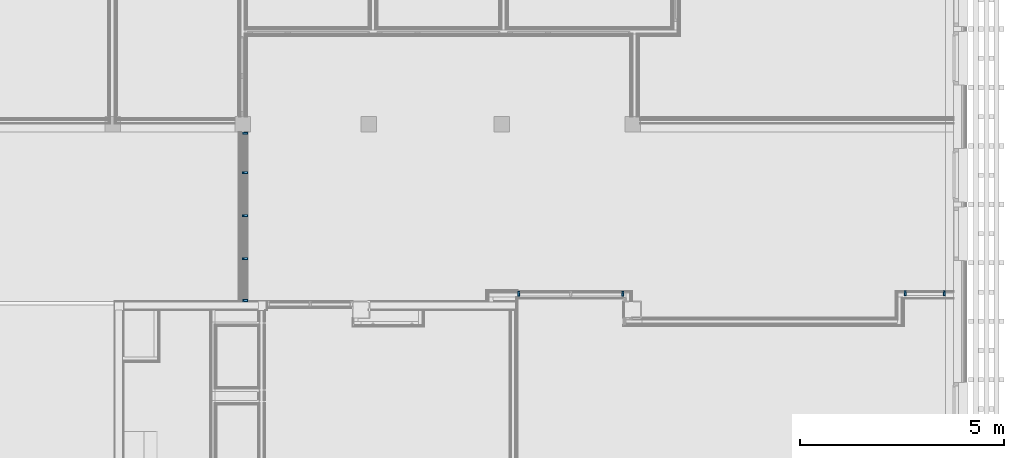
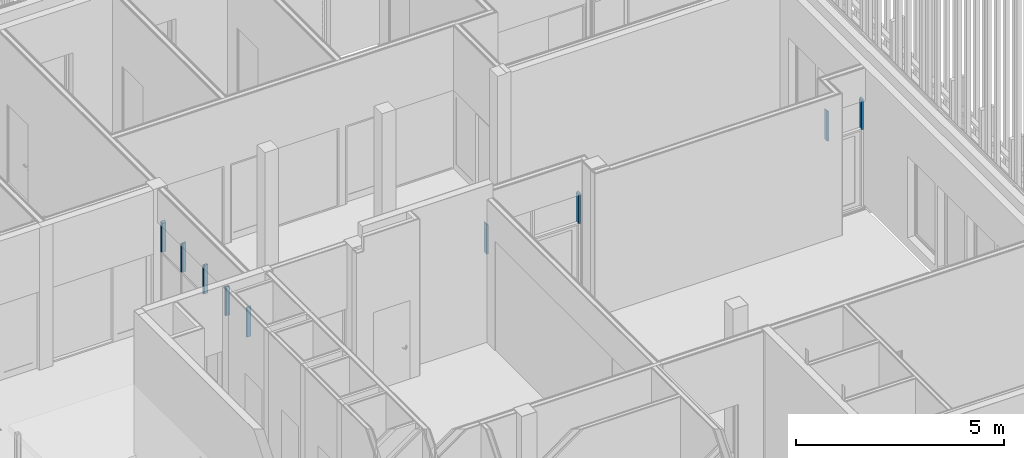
# One storey, part 48 of 260: 9 members, 3 elements without a shape of their own.
"""IFC2X3 building model written with IfcOpenShell, lengths in millimetres."""

import ifcopenshell
import ifcopenshell.guid

model = None  # the IFC model being written
_history = None  # IfcOwnerHistory: only IFC2X3 demands one
_inside = {}  # id of a spatial element -> (the spatial element, [elements in it])
_under = {}  # id of a project, library or spatial element -> (it, [spatial elements below it])
_declared = {}  # id of a project -> (the project, [libraries it declares])
_typed = {}  # id of a type object -> (the type object, [elements of that type])
_made_of = {}  # id of a material, layer set ... -> (it, [elements and type objects made of it])


def new_model(schema):
    """Start an empty IFC model of exactly this schema.

    Asked for "IFC4X3", IfcOpenShell would pick the latest addendum, in which some entities
    have other attributes; the version numbers below select the first issue.
    IFC2X3 requires an IfcOwnerHistory on every rooted entity: one is made here for all.
    """
    global model, _history
    if schema == "IFC4X3":
        model = ifcopenshell.file(schema_version=(4, 3, 0, 0))
    else:
        model = ifcopenshell.file(schema=schema)
    _inside.clear()
    _under.clear()
    _declared.clear()
    _typed.clear()
    _made_of.clear()
    _history = None
    if model.schema == "IFC2X3":
        org = make("IfcOrganization", Name="unknown")
        user = make(
            "IfcPersonAndOrganization",
            ThePerson=make("IfcPerson", FamilyName="unknown"),
            TheOrganization=org,
        )
        app = make(
            "IfcApplication",
            ApplicationDeveloper=org,
            Version="unknown",
            ApplicationFullName="unknown",
            ApplicationIdentifier="unknown",
        )
        _history = make(
            "IfcOwnerHistory",
            OwningUser=user,
            OwningApplication=app,
            ChangeAction="ADDED",
            CreationDate=0,
        )
    return model


def make(cls, **values):
    """One entity of the class cls with the attributes given. An attribute that is None is left unset."""
    return model.create_entity(
        cls, **{name: value for name, value in values.items() if value is not None}
    )


def entity(cls, *values):
    """Any entity or typed value of the class cls, its attributes in the order of the schema. None: left unset."""
    e = model.create_entity(cls)
    for i, value in enumerate(values):
        if value is not None:
            e[i] = value
    return e


def rooted(cls, **values):
    """An entity with a GlobalId (a new one), such as an element, a storey or a relation."""
    return make(cls, GlobalId=ifcopenshell.guid.new(), OwnerHistory=_history, **values)


def si_unit(unit_type, name, prefix=None):
    """IfcSIUnit, for example si_unit("LENGTHUNIT", "METRE", prefix="MILLI")."""
    return make("IfcSIUnit", UnitType=unit_type, Prefix=prefix, Name=name)


def converted_unit(unit_type, name, factor, base, dimensions=None, offset=None):
    """IfcConversionBasedUnit, such as the inch: factor (a typed value) times the base unit."""
    return make(
        "IfcConversionBasedUnit"
        if offset is None
        else "IfcConversionBasedUnitWithOffset",
        ConversionOffset=offset,
        Dimensions=None
        if dimensions is None
        else entity("IfcDimensionalExponents", *dimensions),
        UnitType=unit_type,
        Name=name,
        ConversionFactor=make(
            "IfcMeasureWithUnit", ValueComponent=factor, UnitComponent=base
        ),
    )


def derived_unit(unit_type, elements):
    """IfcDerivedUnit: a product of units, each with its exponent."""
    return make(
        "IfcDerivedUnit",
        Elements=[
            make("IfcDerivedUnitElement", Unit=unit, Exponent=power)
            for unit, power in elements
        ],
        UnitType=unit_type,
    )


def money_unit(currency):
    """IfcMonetaryUnit."""
    return make("IfcMonetaryUnit", Currency=currency)


def assignment(units):
    """IfcUnitAssignment: the units of a project."""
    return None if units is None else make("IfcUnitAssignment", Units=units)


def point(xyz):
    """IfcCartesianPoint."""
    return None if xyz is None else make("IfcCartesianPoint", Coordinates=xyz)


def direction(xyz):
    """IfcDirection."""
    return None if xyz is None else make("IfcDirection", DirectionRatios=xyz)


def frame(location, z_axis=None, x_axis=None):
    """IfcAxis2Placement3D, a coordinate frame: its origin and axes. An axis left out is left unset."""
    return make(
        "IfcAxis2Placement3D",
        Location=point(location),
        Axis=direction(z_axis),
        RefDirection=direction(x_axis),
    )


def origin_with_axes():
    """The frame at (0, 0, 0) with the z axis (0, 0, 1) and the x axis (1, 0, 0) written out."""
    return frame((0.0, 0.0, 0.0), z_axis=(0.0, 0.0, 1.0), x_axis=(1.0, 0.0, 0.0))


def place(relative_to, where):
    """IfcLocalPlacement: puts the frame where relative to a parent placement (None: the world)."""
    return make(
        "IfcLocalPlacement", PlacementRelTo=relative_to, RelativePlacement=where
    )


def context(
    kind, dimensions, precision=None, world=None, true_north=None, identifier=None
):
    """IfcGeometricRepresentationContext, for example the 3D "Model" context."""
    return make(
        "IfcGeometricRepresentationContext",
        ContextIdentifier=identifier,
        ContextType=kind,
        CoordinateSpaceDimension=dimensions,
        Precision=precision,
        WorldCoordinateSystem=world,
        TrueNorth=true_north,
    )


def subcontext(parent, identifier, kind, view, scale=None):
    """IfcGeometricRepresentationSubContext, for example "Body" below "Model"."""
    return make(
        "IfcGeometricRepresentationSubContext",
        ContextIdentifier=identifier,
        ContextType=kind,
        ParentContext=parent,
        TargetScale=scale,
        TargetView=view,
    )


def project(units=None, contexts=None):
    """IfcProject with its units and contexts."""
    return rooted(
        "IfcProject",
        Name="project",
        RepresentationContexts=contexts,
        UnitsInContext=assignment(units),
    )


def spatial(cls, under=None, at=None, **own):
    """A site, building, storey or space (cls), placed at a placement, below another one or the project."""
    s = rooted(cls, ObjectPlacement=at, **own)
    if under is not None:
        _under.setdefault(under.id(), (under, []))[1].append(s)
    return s


def faces_of(points, faces, orient=None, outer=None):
    """IfcFace entities. A face is a list of loops; a loop is a list of indices into points, from 0.

    orient and outer hold one flag for each loop. By default every Orientation is true, the
    first loop of a face is its IfcFaceOuterBound and the others are IfcFaceBound.
    """
    made = []
    for i, loops in enumerate(faces):
        bounds = []
        for j, loop in enumerate(loops):
            is_outer = j == 0 if outer is None else outer[i][j]
            bounds.append(
                make(
                    "IfcFaceOuterBound" if is_outer else "IfcFaceBound",
                    Bound=make("IfcPolyLoop", Polygon=[points[k] for k in loop]),
                    Orientation=True if orient is None else orient[i][j],
                )
            )
        made.append(make("IfcFace", Bounds=bounds))
    return made


def faceted_brep(points, faces, orient=None, outer=None, voids=None):
    """IfcFacetedBrep: a solid bounded by flat faces; with voids (closed shells), ...WithVoids."""
    shared = [point(p) for p in points]
    hull = make("IfcClosedShell", CfsFaces=faces_of(shared, faces, orient, outer))
    if voids is None:
        return make("IfcFacetedBrep", Outer=hull)
    return make(
        "IfcFacetedBrepWithVoids",
        Outer=hull,
        Voids=[
            make(cls, CfsFaces=faces_of(shared, fs, o, b)) for cls, fs, o, b in voids
        ],
    )


def shape(context_of_items, identifier, shape_type, items):
    """IfcShapeRepresentation: the items that make up one representation, for example the "Body"."""
    return make(
        "IfcShapeRepresentation",
        ContextOfItems=context_of_items,
        RepresentationIdentifier=identifier,
        RepresentationType=shape_type,
        Items=items,
    )


def source(mapping_origin, context_of_items, identifier, shape_type, items):
    """IfcRepresentationMap: a shape defined once, which mapped items show again and again."""
    return make(
        "IfcRepresentationMap",
        MappingOrigin=mapping_origin,
        MappedRepresentation=shape(context_of_items, identifier, shape_type, items),
    )


def transform(
    local_origin,
    x_axis=None,
    y_axis=None,
    z_axis=None,
    scale=None,
    scale2=None,
    scale3=None,
    uniform=True,
):
    """IfcCartesianTransformationOperator3D, or its non-uniform kind. x_axis, y_axis, z_axis: its Axis1, 2, 3."""
    if uniform:
        return make(
            "IfcCartesianTransformationOperator3D",
            Axis1=direction(x_axis),
            Axis2=direction(y_axis),
            LocalOrigin=point(local_origin),
            Scale=scale,
            Axis3=direction(z_axis),
        )
    return make(
        "IfcCartesianTransformationOperator3DnonUniform",
        Axis1=direction(x_axis),
        Axis2=direction(y_axis),
        LocalOrigin=point(local_origin),
        Scale=scale,
        Axis3=direction(z_axis),
        Scale2=scale2,
        Scale3=scale3,
    )


def mapped(mapping_source, mapping_target):
    """IfcMappedItem: shows the shape of a source again, moved by a transform."""
    return make(
        "IfcMappedItem", MappingSource=mapping_source, MappingTarget=mapping_target
    )


def material(Name=None, Category=None):
    """IfcMaterial."""
    return make("IfcMaterial", Name=Name, Category=Category)


def made_of(thing, what):
    """Note that an element or type object is made of a material, layer set ...; save() writes the relation."""
    if what is not None:
        _made_of.setdefault(what.id(), (what, []))[1].append(thing)
    return thing


def type_object(cls, material=None, **own):
    """A type object (cls), such as IfcWallType, which elements share."""
    return made_of(rooted(cls, **own), material)


def element(
    cls,
    number,
    at=None,
    inside=None,
    cuts=None,
    type_object=None,
    material=None,
    context=None,
    identifier="Body",
    shape_type=None,
    held_by="IfcProductDefinitionShape",
    body=None,
    shapes=None,
    **own,
):
    """One element of the class cls, such as IfcWall. Its Tag is "e" and its number.

    at: its placement. inside: the storey or other place that contains it. cuts: it is an
    opening in that element (IfcRelVoidsElement). A single representation is given by context,
    identifier, shape_type and body (its items); several are given by shapes. held_by: the class
    of the entity that holds the representations. save() writes the other relations.
    """
    e = rooted(cls, Tag="e%d" % number, ObjectPlacement=at, **own)
    if body is not None:
        shapes = [shape(context, identifier, shape_type, body)]
    if shapes is not None:
        e.Representation = make(held_by, Representations=shapes)
    if inside is not None:
        _inside.setdefault(inside.id(), (inside, []))[1].append(e)
    if cuts is not None:
        rooted(
            "IfcRelVoidsElement", RelatingBuildingElement=cuts, RelatedOpeningElement=e
        )
    if type_object is not None:
        _typed.setdefault(type_object.id(), (type_object, []))[1].append(e)
    return made_of(e, material)


def aggregate(whole, parts):
    """IfcRelAggregates: a whole, such as a stair, and the parts it consists of."""
    return rooted("IfcRelAggregates", RelatingObject=whole, RelatedObjects=parts)


def save(model, path):
    """Write the relations noted so far, then the file.

    IfcRelAggregates (storeys below a building ...), IfcRelContainedInSpatialStructure (elements
    in a storey), IfcRelDefinesByType, IfcRelAssociatesMaterial and IfcRelDeclares: one each for
    every whole, place, type object, material and project.
    """
    for whole, parts in _under.values():
        aggregate(whole, parts)
    for where, things in _inside.values():
        rooted(
            "IfcRelContainedInSpatialStructure",
            RelatedElements=things,
            RelatingStructure=where,
        )
    for kind, things in _typed.values():
        rooted("IfcRelDefinesByType", RelatedObjects=things, RelatingType=kind)
    for what, things in _made_of.values():
        rooted("IfcRelAssociatesMaterial", RelatedObjects=things, RelatingMaterial=what)
    for by, libraries in _declared.values():
        rooted("IfcRelDeclares", RelatingContext=by, RelatedDefinitions=libraries)
    model.write(path)


model = new_model("IFC2X3")

# Units and contexts
model_context = context("Model", 3, precision=0.01, world=origin_with_axes(), true_north=direction((0.0, 1.0)))
body_context = subcontext(model_context, "Body", "Model", "MODEL_VIEW")
ifc_project = project(units=[si_unit("LENGTHUNIT", "METRE", prefix="MILLI"), si_unit("AREAUNIT", "SQUARE_METRE"), si_unit("VOLUMEUNIT", "CUBIC_METRE"), converted_unit("PLANEANGLEUNIT", "DEGREE", entity("IfcPlaneAngleMeasure", 0.0174532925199), si_unit("PLANEANGLEUNIT", "RADIAN"), dimensions=[0, 0, 0, 0, 0, 0, 0]), money_unit("EUR"), converted_unit("TIMEUNIT", "Year", entity("IfcTimeMeasure", 31556926.0), si_unit("TIMEUNIT", "SECOND"), dimensions=[0, 0, 1, 0, 0, 0, 0]), si_unit("MASSUNIT", "GRAM", prefix="KILO"), si_unit("THERMODYNAMICTEMPERATUREUNIT", "DEGREE_CELSIUS"), si_unit("LUMINOUSINTENSITYUNIT", "LUMEN"), si_unit("ENERGYUNIT", "JOULE", prefix="MEGA"), derived_unit("THERMALCONDUCTANCEUNIT", [(si_unit("POWERUNIT", "WATT"), 1), (si_unit("LENGTHUNIT", "METRE"), -1), (si_unit("THERMODYNAMICTEMPERATUREUNIT", "KELVIN"), -1)]), derived_unit("SPECIFICHEATCAPACITYUNIT", [(si_unit("ENERGYUNIT", "JOULE"), 1), (si_unit("MASSUNIT", "GRAM", prefix="KILO"), -1), (si_unit("THERMODYNAMICTEMPERATUREUNIT", "KELVIN"), -1)]), derived_unit("MASSDENSITYUNIT", [(si_unit("MASSUNIT", "GRAM", prefix="KILO"), 1), (si_unit("VOLUMEUNIT", "CUBIC_METRE"), -1)])], contexts=[model_context])

# Site, building, storey
site_placement = place(None, origin_with_axes())
site = spatial("IfcSite", under=ifc_project, at=site_placement, Name="Kolde pst 67a", CompositionType="ELEMENT")
building_placement = place(site_placement, origin_with_axes())
building = spatial("IfcBuilding", under=site, at=building_placement, Name="Riigigümnaasium", CompositionType="ELEMENT")
storey_placement = place(building_placement, origin_with_axes())
storey = spatial("IfcBuildingStorey", under=building, at=storey_placement, Name="1. korrus", CompositionType="ELEMENT", Elevation=0.0)

# Curtain wall, member
curtain_wall_type = type_object("IfcCurtainWallType", Name="Curtain Wall Type", PredefinedType="NOTDEFINED")
curtain_wall_1_placement = place(storey_placement, frame((67073.6436674, 24969.9980242, -4.39663916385e-06), z_axis=(0.0, 0.0, 1.0), x_axis=(1.0, 0.0, 0.0)))
curtain_wall_1 = element("IfcCurtainWall", 1, at=curtain_wall_1_placement, inside=storey, type_object=curtain_wall_type, Name="KLAASSEIN")
ifc_material = material(Name="_METALL - alumiinium")
member_type_1 = type_object("IfcMemberType", Name="Boundary Frame 50 x 120", PredefinedType="MEMBER")
shared_shape_1 = source(origin_with_axes(), body_context, "Body", "Brep", [
    faceted_brep([(30.0, -10.0, 0.0), (30.0, 10.0, 0.0), (30.0, 10.0, 869.999996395), (30.0, -10.0, 869.999996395), (20.0, -10.0, 0.0), (20.0, 10.0, 0.0), (20.0, 10.0, 879.999996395), (20.0, -10.0, 879.999996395)], [[[0, 1, 2, 3]], [[0, 4, 5, 1]], [[1, 5, 6, 2]], [[3, 2, 6, 7]], [[4, 0, 3, 7]], [[5, 4, 7, 6]]]),
    faceted_brep([(20.0, -10.0, 0.0), (20.0, 10.0, 0.0), (20.0, 10.0, 879.999996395), (20.0, -10.0, 879.999996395), (0.0, -10.0, 0.0), (0.0, 10.0, 0.0), (0.0, 10.0, 899.999996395), (0.0, -10.0, 899.999996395)], [[[0, 1, 2, 3]], [[0, 4, 5, 1]], [[1, 5, 6, 2]], [[3, 2, 6, 7]], [[4, 0, 3, 7]], [[5, 4, 7, 6]]]),
    faceted_brep([(50.0, -100.0, 0.0), (50.0, -10.0, 0.0), (50.0, -10.0, 849.999996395), (50.0, -100.0, 849.999996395), (0.0, -100.0, 0.0), (0.0, -10.0, 0.0), (0.0, -10.0, 899.999996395), (0.0, -100.0, 899.999996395)], [[[0, 1, 2, 3]], [[0, 4, 5, 1]], [[1, 5, 6, 2]], [[3, 2, 6, 7]], [[4, 0, 3, 7]], [[5, 4, 7, 6]]]),
    faceted_brep([(0.0, 20.0, 0.0), (0.0, 10.0, 0.0), (0.0, 10.0, 899.999996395), (0.0, 20.0, 899.999996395), (50.0, 20.0, 0.0), (50.0, 10.0, 0.0), (50.0, 10.0, 849.999996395), (50.0, 20.0, 849.999996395)], [[[0, 1, 2, 3]], [[0, 4, 5, 1]], [[1, 5, 6, 2]], [[3, 2, 6, 7]], [[4, 0, 3, 7]], [[5, 4, 7, 6]]]),
])
member_1_placement = place(curtain_wall_1_placement, frame((0.0, -525.0, 2299.99999438), z_axis=(0.0, 0.0, 1.0), x_axis=(0.0, -1.0, 0.0)))
member_1 = element("IfcMember", 2, at=member_1_placement, type_object=member_type_1, material=ifc_material, Name="RF RAAM SERV-018", ObjectType="MEMBER", context=body_context, shape_type="MappedRepresentation", body=[
    mapped(shared_shape_1, transform((0.0, 0.0, 0.0), x_axis=(-1.0, 0.0, 0.0), y_axis=(0.0, -1.0, 0.0), z_axis=(0.0, 0.0, 1.0))),
])

curtain_wall_2_placement = place(storey_placement, frame((75080.0012187, 24675.0981117, -4.39663905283e-06), z_axis=(0.0, 0.0, 1.0), x_axis=(1.0, 0.0, 0.0)))
curtain_wall_2 = element("IfcCurtainWall", 3, at=curtain_wall_2_placement, inside=storey, type_object=curtain_wall_type, Name="KLAASSEIN")
member_2_placement = place(curtain_wall_2_placement, frame((-1300.00168867, 0.0, 2300.0), z_axis=(0.0, 0.0, 1.0), x_axis=(1.0, 0.0, 0.0)))
member_2 = element("IfcMember", 4, at=member_2_placement, type_object=member_type_1, material=ifc_material, Name="RF RAAM SERV-100", ObjectType="MEMBER", context=body_context, shape_type="MappedRepresentation", body=[
    mapped(shared_shape_1, transform((0.0, 0.0, 0.0))),
])

curtain_wall_3_placement = place(storey_placement, frame((83735.0006955, 24688.0768619, -4.19329628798e-05), z_axis=(0.0, 0.0, 1.0), x_axis=(1.0, 0.0, 0.0)))
curtain_wall_3 = element("IfcCurtainWall", 5, at=curtain_wall_3_placement, inside=storey, type_object=curtain_wall_type, Name="KLAASSEIN")
member_3_placement = place(curtain_wall_3_placement, frame((-504.998632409, 0.0, 2300.00003754), z_axis=(0.0, 0.0, 1.0), x_axis=(1.0, 0.0, 0.0)))
member_3 = element("IfcMember", 6, at=member_3_placement, type_object=member_type_1, material=ifc_material, Name="RF RAAM SERV-099", ObjectType="MEMBER", context=body_context, shape_type="MappedRepresentation", body=[
    mapped(shared_shape_1, transform((0.0, 0.0, 0.0))),
])

# Member
member_type_2 = type_object("IfcMemberType", Name="Mullion Frame 50 x 125", PredefinedType="MEMBER")
shared_shape_2 = source(origin_with_axes(), body_context, "Body", "Brep", [
    faceted_brep([(-5.0, -10.0, 0.0), (-5.0, -10.0, 849.999996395), (-5.0, 10.0, 849.999996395), (-5.0, 10.0, 0.0), (5.0, -10.0, 0.0), (5.0, -10.0, 849.999996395), (5.0, 10.0, 849.999996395), (5.0, 10.0, 0.0)], [[[0, 1, 2, 3]], [[4, 5, 1, 0]], [[1, 5, 6, 2]], [[3, 2, 6, 7]], [[0, 3, 7, 4]], [[7, 6, 5, 4]]]),
    faceted_brep([(-25.0, -100.0, 0.0), (-25.0, -100.0, 849.999996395), (-25.0, -10.0, 849.999996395), (-25.0, -10.0, 0.0), (25.0, -100.0, 0.0), (25.0, -100.0, 849.999996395), (25.0, -10.0, 849.999996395), (25.0, -10.0, 0.0)], [[[0, 1, 2, 3]], [[4, 5, 1, 0]], [[1, 5, 6, 2]], [[3, 2, 6, 7]], [[0, 3, 7, 4]], [[7, 6, 5, 4]]]),
    faceted_brep([(25.0, 25.0, 0.0), (25.0, 25.0, 849.999996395), (25.0, 10.0, 849.999996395), (25.0, 10.0, 0.0), (-25.0, 25.0, 0.0), (-25.0, 25.0, 849.999996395), (-25.0, 10.0, 849.999996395), (-25.0, 10.0, 0.0)], [[[0, 1, 2, 3]], [[4, 5, 1, 0]], [[1, 5, 6, 2]], [[3, 2, 6, 7]], [[0, 3, 7, 4]], [[7, 6, 5, 4]]]),
])
member_4_placement = place(curtain_wall_1_placement, frame((0.0, 525.0, 2299.99999438), z_axis=(0.0, 0.0, 1.0), x_axis=(0.0, -1.0, 0.0)))
member_4 = element("IfcMember", 7, at=member_4_placement, type_object=member_type_2, material=ifc_material, Name="RF RAAM VERT-335", ObjectType="MEMBER", context=body_context, shape_type="MappedRepresentation", body=[
    mapped(shared_shape_2, transform((0.0, 0.0, 0.0), x_axis=(-1.0, 0.0, 0.0), y_axis=(0.0, -1.0, 0.0), z_axis=(0.0, 0.0, 1.0))),
])

member_5_placement = place(curtain_wall_1_placement, frame((0.0, 1575.0, 2299.99999438), z_axis=(0.0, 0.0, 1.0), x_axis=(0.0, -1.0, 0.0)))
member_5 = element("IfcMember", 8, at=member_5_placement, type_object=member_type_2, material=ifc_material, Name="RF RAAM VERT-336", ObjectType="MEMBER", context=body_context, shape_type="MappedRepresentation", body=[
    mapped(shared_shape_2, transform((0.0, 0.0, 0.0), x_axis=(-1.0, 0.0, 0.0), y_axis=(0.0, -1.0, 0.0), z_axis=(0.0, 0.0, 1.0))),
])

member_6_placement = place(curtain_wall_1_placement, frame((0.0, 2625.0, 2299.99999438), z_axis=(0.0, 0.0, 1.0), x_axis=(0.0, -1.0, 0.0)))
member_6 = element("IfcMember", 9, at=member_6_placement, type_object=member_type_2, material=ifc_material, Name="RF RAAM VERT-337", ObjectType="MEMBER", context=body_context, shape_type="MappedRepresentation", body=[
    mapped(shared_shape_2, transform((0.0, 0.0, 0.0), x_axis=(-1.0, 0.0, 0.0), y_axis=(0.0, -1.0, 0.0), z_axis=(0.0, 0.0, 1.0))),
])

shared_shape_3 = source(origin_with_axes(), body_context, "Body", "Brep", [
    faceted_brep([(-30.0, -10.0, 0.0), (-30.0, -10.0, 869.999996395), (-30.0, 10.0, 869.999996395), (-30.0, 10.0, 0.0), (-20.0, -10.0, 0.0), (-20.0, -10.0, 879.999996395), (-20.0, 10.0, 879.999996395), (-20.0, 10.0, 0.0)], [[[0, 1, 2, 3]], [[4, 5, 1, 0]], [[1, 5, 6, 2]], [[3, 2, 6, 7]], [[0, 3, 7, 4]], [[7, 6, 5, 4]]]),
    faceted_brep([(-20.0, -10.0, 0.0), (-20.0, -10.0, 879.999996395), (-20.0, 10.0, 879.999996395), (-20.0, 10.0, 0.0), (0.0, -10.0, 0.0), (0.0, -10.0, 899.999996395), (0.0, 10.0, 899.999996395), (0.0, 10.0, 0.0)], [[[0, 1, 2, 3]], [[4, 5, 1, 0]], [[1, 5, 6, 2]], [[3, 2, 6, 7]], [[0, 3, 7, 4]], [[7, 6, 5, 4]]]),
    faceted_brep([(-50.0, -100.0, 0.0), (-50.0, -100.0, 849.999996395), (-50.0, -10.0, 849.999996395), (-50.0, -10.0, 0.0), (0.0, -100.0, 0.0), (0.0, -100.0, 899.999996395), (0.0, -10.0, 899.999996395), (0.0, -10.0, 0.0)], [[[0, 1, 2, 3]], [[4, 5, 1, 0]], [[1, 5, 6, 2]], [[3, 2, 6, 7]], [[0, 3, 7, 4]], [[7, 6, 5, 4]]]),
    faceted_brep([(0.0, 20.0, 0.0), (0.0, 20.0, 899.999996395), (0.0, 10.0, 899.999996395), (0.0, 10.0, 0.0), (-50.0, 20.0, 0.0), (-50.0, 20.0, 849.999996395), (-50.0, 10.0, 849.999996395), (-50.0, 10.0, 0.0)], [[[0, 1, 2, 3]], [[4, 5, 1, 0]], [[1, 5, 6, 2]], [[3, 2, 6, 7]], [[0, 3, 7, 4]], [[7, 6, 5, 4]]]),
])
member_7_placement = place(curtain_wall_1_placement, frame((0.0, 3620.0016397, 2299.99999438), z_axis=(0.0, 0.0, 1.0), x_axis=(0.0, -1.0, 0.0)))
member_7 = element("IfcMember", 10, at=member_7_placement, type_object=member_type_1, material=ifc_material, Name="RF RAAM SERV-013", ObjectType="MEMBER", context=body_context, shape_type="MappedRepresentation", body=[
    mapped(shared_shape_3, transform((0.0, 0.0, 0.0), x_axis=(-1.0, 0.0, 0.0), y_axis=(0.0, -1.0, 0.0), z_axis=(0.0, 0.0, 1.0))),
])

aggregate(curtain_wall_1, [member_1, member_4, member_5, member_6, member_7])

member_8_placement = place(curtain_wall_2_placement, frame((1300.00084434, 0.0, 2300.0), z_axis=(0.0, 0.0, 1.0), x_axis=(1.0, 0.0, 0.0)))
member_8 = element("IfcMember", 11, at=member_8_placement, type_object=member_type_1, material=ifc_material, Name="RF RAAM SERV-103", ObjectType="MEMBER", context=body_context, shape_type="MappedRepresentation", body=[
    mapped(shared_shape_3, transform((0.0, 0.0, 0.0))),
])

aggregate(curtain_wall_2, [member_8, member_2])

member_9_placement = place(curtain_wall_3_placement, frame((504.998632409, 0.0, 2300.00003754), z_axis=(0.0, 0.0, 1.0), x_axis=(1.0, 0.0, 0.0)))
member_9 = element("IfcMember", 12, at=member_9_placement, type_object=member_type_1, material=ifc_material, Name="RF RAAM SERV-101", ObjectType="MEMBER", context=body_context, shape_type="MappedRepresentation", body=[
    mapped(shared_shape_3, transform((0.0, 0.0, 0.0))),
])

aggregate(curtain_wall_3, [member_9, member_3])

save(model, "model.ifc")
